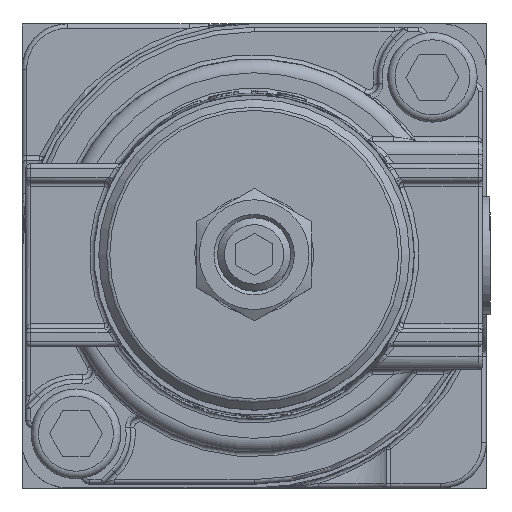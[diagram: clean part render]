
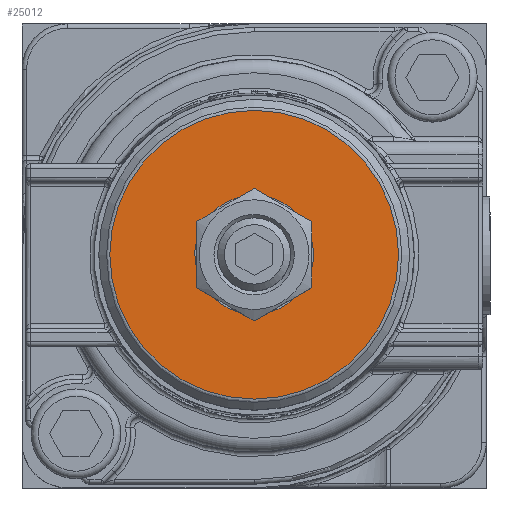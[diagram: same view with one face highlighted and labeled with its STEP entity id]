
A CAD part, top view. The second image highlights one B-rep face of the part: STEP entity #25012.
In plain terms, the highlighted planar face has unit normal (0, 0, 1).
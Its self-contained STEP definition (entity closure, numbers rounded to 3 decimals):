
#1601=CIRCLE('',#26210,6.5);
#1604=CIRCLE('',#26218,15.793);
#1605=CIRCLE('',#26219,5.);
#2616=ORIENTED_EDGE('',*,*,#7801,.T.);
#2617=ORIENTED_EDGE('',*,*,#7795,.F.);
#2618=ORIENTED_EDGE('',*,*,#7791,.T.);
#2619=ORIENTED_EDGE('',*,*,#7798,.F.);
#2620=ORIENTED_EDGE('',*,*,#7802,.F.);
#7791=EDGE_CURVE('',#10391,#10390,#1601,.T.);
#7795=EDGE_CURVE('',#10391,#10382,#12026,.T.);
#7798=EDGE_CURVE('',#10384,#10390,#12029,.T.);
#7801=EDGE_CURVE('',#10392,#10392,#1604,.T.);
#7802=EDGE_CURVE('',#10382,#10384,#1605,.T.);
#10382=VERTEX_POINT('',#32968);
#10384=VERTEX_POINT('',#32971);
#10390=VERTEX_POINT('',#32986);
#10391=VERTEX_POINT('',#32988);
#10392=VERTEX_POINT('',#33004);
#12026=LINE('',#32994,#12924);
#12029=LINE('',#32998,#12927);
#12924=VECTOR('',#28190,1000.);
#12927=VECTOR('',#28195,1000.);
#13820=EDGE_LOOP('',(#2616));
#13821=EDGE_LOOP('',(#2617,#2618,#2619,#2620));
#15222=FACE_BOUND('',#13820,.T.);
#15223=FACE_BOUND('',#13821,.T.);
#16628=PLANE('',#26217);
#25012=ADVANCED_FACE('',(#15222,#15223),#16628,.T.);
#26210=AXIS2_PLACEMENT_3D('',#32987,#28181,#28182);
#26217=AXIS2_PLACEMENT_3D('',#33002,#28202,#28203);
#26218=AXIS2_PLACEMENT_3D('',#33003,#28204,#28205);
#26219=AXIS2_PLACEMENT_3D('',#33005,#28206,#28207);
#28181=DIRECTION('',(0.,0.,-1.));
#28182=DIRECTION('',(0.,1.,0.));
#28190=DIRECTION('',(0.,-1.,0.));
#28195=DIRECTION('',(0.,1.,0.));
#28202=DIRECTION('',(0.,0.,1.));
#28203=DIRECTION('',(1.,0.,0.));
#28204=DIRECTION('',(0.,0.,1.));
#28205=DIRECTION('',(0.,-1.,0.));
#28206=DIRECTION('',(0.,0.,1.));
#28207=DIRECTION('',(0.,-1.,0.));
#32968=CARTESIAN_POINT('',(0.75,4.943,70.95));
#32971=CARTESIAN_POINT('',(-0.75,4.943,70.95));
#32986=CARTESIAN_POINT('',(-0.75,6.457,70.95));
#32987=CARTESIAN_POINT('',(0.,0.,70.95));
#32988=CARTESIAN_POINT('',(0.75,6.457,70.95));
#32994=CARTESIAN_POINT('',(0.75,0.,70.95));
#32998=CARTESIAN_POINT('',(-0.75,0.,70.95));
#33002=CARTESIAN_POINT('',(17.5,0.,70.95));
#33003=CARTESIAN_POINT('',(0.,0.,70.95));
#33004=CARTESIAN_POINT('',(0.,-15.793,70.95));
#33005=CARTESIAN_POINT('',(0.,0.,70.95));
